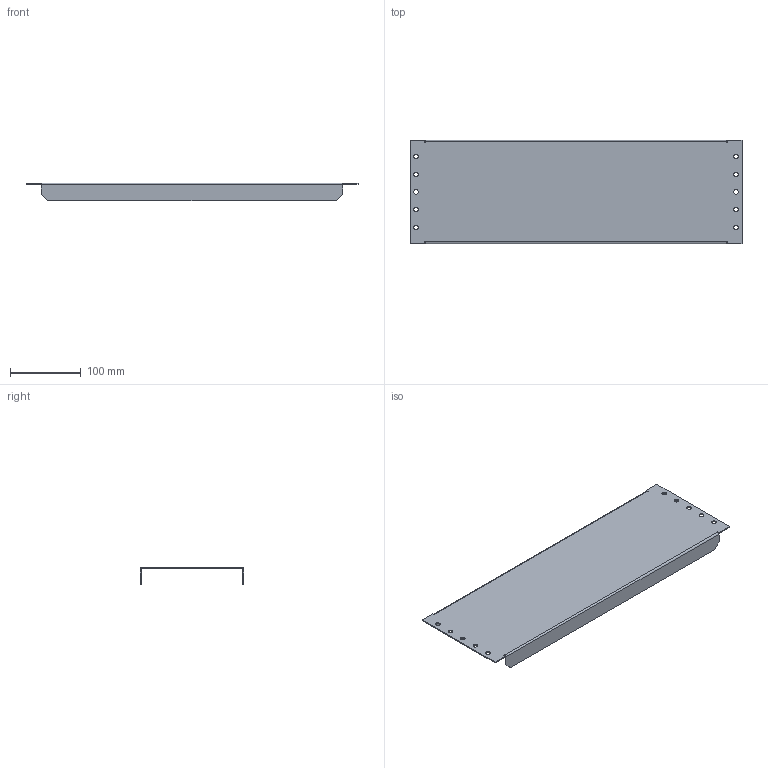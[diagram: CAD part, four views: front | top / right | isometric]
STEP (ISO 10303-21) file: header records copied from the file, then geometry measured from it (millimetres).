
FILE_DESCRIPTION (( 'STEP AP214' ), '1' );
FILE_NAME ('MSMPN1506.STEP', '2016-08-11T12:41:03', ( '' ), ( '' ), 'SwSTEP 2.0', 'SolidWorks 2014', '' );
FILE_SCHEMA (( 'AUTOMOTIVE_DESIGN' ));
Length unit declared in the file: millimetre
Products named in the file (1): MSMPN1506
Bounding box: 470 x 146 x 25 mm (x, y, z)
Volume: 131451.5 mm3; surface area: 177563.6 mm2
Topology: 1 solids, 1 shells, 52 faces, 144 edges, 94 vertices
Faces by surface type: plane 38, cylinder 14
Full cylindrical faces by diameter (mm): 6.5 x10
Entity records: 1582 total; most frequent: CARTESIAN_POINT 261, DIRECTION 258, ORIENTED_EDGE 248, EDGE_CURVE 124, LINE 96, VECTOR 96, VERTEX_POINT 84, EDGE_LOOP 82
